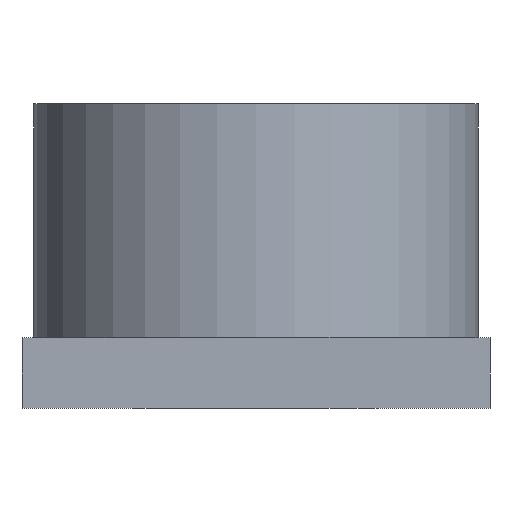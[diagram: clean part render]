
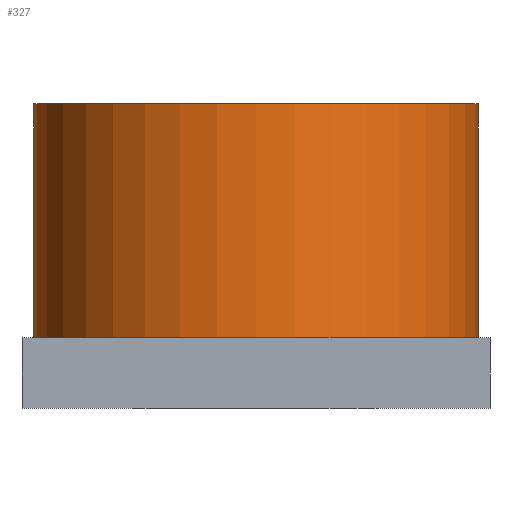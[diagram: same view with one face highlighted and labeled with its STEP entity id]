
A CAD part, front view. The second image highlights one B-rep face of the part: STEP entity #327.
In plain terms, the highlighted cylindrical face has radius 19 mm (diameter 38 mm), a full revolution.
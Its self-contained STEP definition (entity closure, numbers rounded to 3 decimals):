
#13=FACE_BOUND($,#62,.T.);
#45=FACE_OUTER_BOUND($,#61,.T.);
#61=EDGE_LOOP($,(#247));
#62=EDGE_LOOP($,(#248));
#142=CIRCLE($,#359,19.);
#143=CIRCLE($,#360,19.);
#162=VERTEX_POINT($,#514);
#163=VERTEX_POINT($,#516);
#198=EDGE_CURVE($,#162,#162,#142,.T.);
#199=EDGE_CURVE($,#163,#163,#143,.T.);
#247=ORIENTED_EDGE($,*,*,#198,.F.);
#248=ORIENTED_EDGE($,*,*,#199,.F.);
#297=CYLINDRICAL_SURFACE($,#358,19.);
#327=ADVANCED_FACE($,(#45,#13),#297,.T.);
#358=AXIS2_PLACEMENT_3D($,#513,#426,#427);
#359=AXIS2_PLACEMENT_3D($,#515,#428,#429);
#360=AXIS2_PLACEMENT_3D($,#517,#430,#431);
#426=DIRECTION('center_axis',(0.,0.,1.));
#427=DIRECTION('ref_axis',(-1.,0.,0.));
#428=DIRECTION('center_axis',(0.,0.,1.));
#429=DIRECTION('ref_axis',(-1.,0.,0.));
#430=DIRECTION('center_axis',(0.,0.,-1.));
#431=DIRECTION('ref_axis',(-1.,0.,0.));
#513=CARTESIAN_POINT('Origin',(0.,0.,6.));
#514=CARTESIAN_POINT('',(19.,0.,26.));
#515=CARTESIAN_POINT('Origin',(0.,0.,26.));
#516=CARTESIAN_POINT('',(19.,0.,6.));
#517=CARTESIAN_POINT('Origin',(0.,0.,6.));
